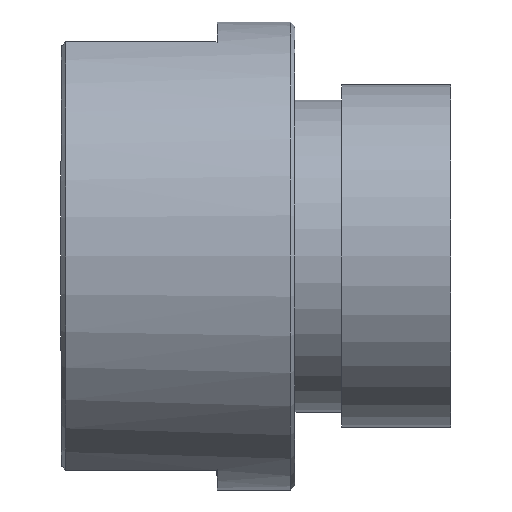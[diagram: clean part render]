
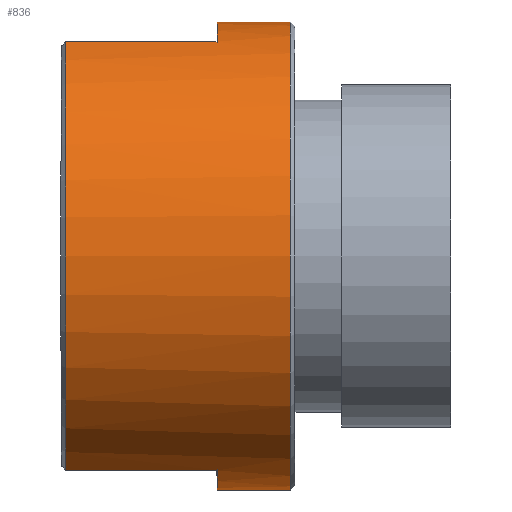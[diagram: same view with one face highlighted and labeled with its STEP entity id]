
A CAD part, left-side view. The second image highlights one B-rep face of the part: STEP entity #836.
In plain terms, the highlighted cylindrical face has radius 15 mm (diameter 30 mm), a partial arc.
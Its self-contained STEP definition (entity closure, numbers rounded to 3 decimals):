
#8 = LINE ( 'NONE', #538, #224 ) ;
#14 = CARTESIAN_POINT ( 'NONE',  ( -6., 5., 13.748 ) ) ;
#19 = CARTESIAN_POINT ( 'NONE',  ( -6., 5., -13.748 ) ) ;
#42 = CYLINDRICAL_SURFACE ( 'NONE', #360, 15. ) ;
#44 = EDGE_CURVE ( 'NONE', #243, #508, #106, .T. ) ;
#60 = CARTESIAN_POINT ( 'NONE',  ( 0., 15., 15. ) ) ;
#74 = VECTOR ( 'NONE', #665, 1000. ) ;
#80 = EDGE_CURVE ( 'NONE', #492, #183, #393, .T. ) ;
#91 = EDGE_CURVE ( 'NONE', #243, #326, #478, .T. ) ;
#106 = LINE ( 'NONE', #60, #500 ) ;
#132 = ORIENTED_EDGE ( 'NONE', *, *, #80, .T. ) ;
#172 = CARTESIAN_POINT ( 'NONE',  ( -6., 14.7, -13.748 ) ) ;
#177 = VECTOR ( 'NONE', #913, 1000. ) ;
#183 = VERTEX_POINT ( 'NONE', #851 ) ;
#186 = EDGE_CURVE ( 'NONE', #183, #508, #476, .T. ) ;
#212 = DIRECTION ( 'NONE',  ( 0., -1., 0. ) ) ;
#220 = ORIENTED_EDGE ( 'NONE', *, *, #700, .F. ) ;
#224 = VECTOR ( 'NONE', #685, 1000. ) ;
#238 = CIRCLE ( 'NONE', #883, 15. ) ;
#239 = FACE_OUTER_BOUND ( 'NONE', #450, .T. ) ;
#243 = VERTEX_POINT ( 'NONE', #328 ) ;
#254 = ORIENTED_EDGE ( 'NONE', *, *, #186, .T. ) ;
#273 = DIRECTION ( 'NONE',  ( -1., 0., 0. ) ) ;
#288 = CARTESIAN_POINT ( 'NONE',  ( -6., 15., -13.748 ) ) ;
#309 = DIRECTION ( 'NONE',  ( 0., 0., -1. ) ) ;
#311 = DIRECTION ( 'NONE',  ( 0., -1., 0. ) ) ;
#313 = DIRECTION ( 'NONE',  ( 0., 1., 0. ) ) ;
#326 = VERTEX_POINT ( 'NONE', #14 ) ;
#327 = ORIENTED_EDGE ( 'NONE', *, *, #91, .T. ) ;
#328 = CARTESIAN_POINT ( 'NONE',  ( 0., 5., 15. ) ) ;
#360 = AXIS2_PLACEMENT_3D ( 'NONE', #520, #527, #587 ) ;
#370 = CARTESIAN_POINT ( 'NONE',  ( 0., 0.3, 15. ) ) ;
#393 = LINE ( 'NONE', #750, #177 ) ;
#431 = CARTESIAN_POINT ( 'NONE',  ( -6., 14.7, 13.748 ) ) ;
#436 = DIRECTION ( 'NONE',  ( 0., -1., 0. ) ) ;
#439 = DIRECTION ( 'NONE',  ( 0., 0., 1. ) ) ;
#447 = CARTESIAN_POINT ( 'NONE',  ( 0., 5., 0. ) ) ;
#450 = EDGE_LOOP ( 'NONE', ( #920, #327, #927, #574, #833, #220, #132, #254 ) ) ;
#464 = AXIS2_PLACEMENT_3D ( 'NONE', #735, #436, #439 ) ;
#476 = CIRCLE ( 'NONE', #725, 15. ) ;
#478 = CIRCLE ( 'NONE', #682, 15. ) ;
#488 = CARTESIAN_POINT ( 'NONE',  ( 0., 0.3, 0. ) ) ;
#492 = VERTEX_POINT ( 'NONE', #608 ) ;
#500 = VECTOR ( 'NONE', #311, 1000. ) ;
#505 = EDGE_CURVE ( 'NONE', #326, #923, #8, .T. ) ;
#508 = VERTEX_POINT ( 'NONE', #370 ) ;
#517 = DIRECTION ( 'NONE',  ( 0., 1., 0. ) ) ;
#520 = CARTESIAN_POINT ( 'NONE',  ( 0., 15., 0. ) ) ;
#527 = DIRECTION ( 'NONE',  ( 0., -1., 0. ) ) ;
#538 = CARTESIAN_POINT ( 'NONE',  ( -6., 15., 13.748 ) ) ;
#574 = ORIENTED_EDGE ( 'NONE', *, *, #965, .T. ) ;
#587 = DIRECTION ( 'NONE',  ( 0., 0., -1. ) ) ;
#608 = CARTESIAN_POINT ( 'NONE',  ( 0., 5., -15. ) ) ;
#652 = VERTEX_POINT ( 'NONE', #172 ) ;
#665 = DIRECTION ( 'NONE',  ( 0., 1., 0. ) ) ;
#682 = AXIS2_PLACEMENT_3D ( 'NONE', #910, #212, #309 ) ;
#685 = DIRECTION ( 'NONE',  ( 0., 1., 0. ) ) ;
#700 = EDGE_CURVE ( 'NONE', #492, #708, #238, .T. ) ;
#708 = VERTEX_POINT ( 'NONE', #19 ) ;
#725 = AXIS2_PLACEMENT_3D ( 'NONE', #488, #313, #845 ) ;
#735 = CARTESIAN_POINT ( 'NONE',  ( 0., 14.7, 0. ) ) ;
#750 = CARTESIAN_POINT ( 'NONE',  ( 0., 15., -15. ) ) ;
#818 = CIRCLE ( 'NONE', #464, 15. ) ;
#831 = EDGE_CURVE ( 'NONE', #708, #652, #1009, .T. ) ;
#833 = ORIENTED_EDGE ( 'NONE', *, *, #831, .F. ) ;
#836 = ADVANCED_FACE ( 'NONE', ( #239 ), #42, .T. ) ;
#845 = DIRECTION ( 'NONE',  ( 0., 0., 1. ) ) ;
#851 = CARTESIAN_POINT ( 'NONE',  ( 0., 0.3, -15. ) ) ;
#883 = AXIS2_PLACEMENT_3D ( 'NONE', #447, #517, #273 ) ;
#910 = CARTESIAN_POINT ( 'NONE',  ( 0., 5., 0. ) ) ;
#913 = DIRECTION ( 'NONE',  ( 0., -1., 0. ) ) ;
#920 = ORIENTED_EDGE ( 'NONE', *, *, #44, .F. ) ;
#923 = VERTEX_POINT ( 'NONE', #431 ) ;
#927 = ORIENTED_EDGE ( 'NONE', *, *, #505, .T. ) ;
#965 = EDGE_CURVE ( 'NONE', #923, #652, #818, .T. ) ;
#1009 = LINE ( 'NONE', #288, #74 ) ;
